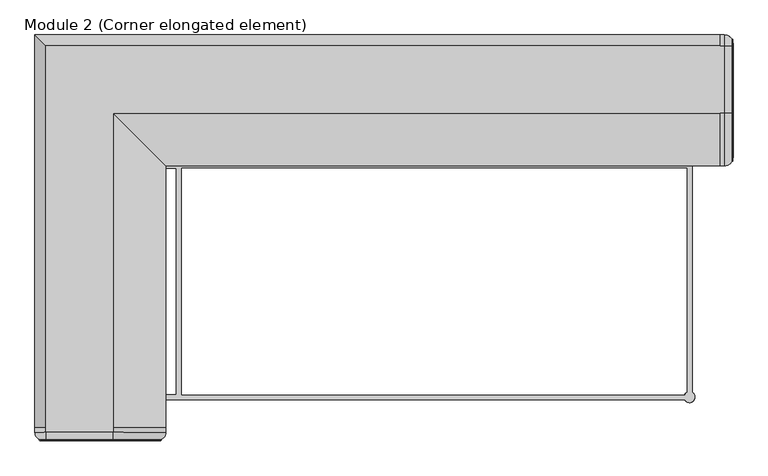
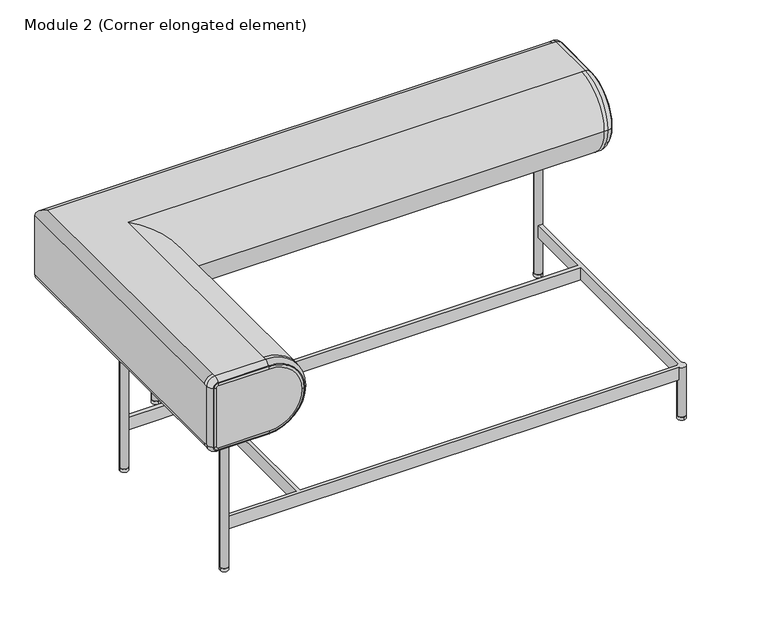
"""IFC4 building model written with IfcOpenShell, lengths in millimetres: furniture geometry, Module 2 (Corner elongated element) : 1600х930х710мм."""

from ifc_helpers import new_model, si_unit, point, frame, frame_2d, origin, origin_with_axes, place, context, project, spatial, circle_curve, ellipse_curve, trimmed, segment, composite_curve, outline, extrude, source, transform, mapped, element, save
from ifc_brep_helpers import plane_surface, cylinder_surface, revolved_surface, advanced_brep


def module_2_corner_elongated_element_4280a7bf(model_context):
    return source(origin(), model_context, "Body", "SolidModel", [
        extrude(outline(composite_curve([segment(trimmed(circle_curve(frame_2d((-30.0, -300.0)), 12.5), [point((-17.5, -300.0))], [point((-42.5, -300.0))], False, "CARTESIAN"), True, "CONTINUOUS"), segment(trimmed(circle_curve(frame_2d((-30.0, -300.0)), 12.5), [point((-42.5, -300.0))], [point((-17.5, -300.0))], False, "CARTESIAN"), True, "CONTINUOUS")], self_intersect=False)), origin_with_axes(), (0.0, 0.0, 1.0), 10.0),
        extrude(outline(composite_curve([segment(trimmed(circle_curve(frame_2d((-30.0, -830.0)), 12.5), [point((-17.5, -830.0))], [point((-42.5, -830.0))], False, "CARTESIAN"), True, "CONTINUOUS"), segment(trimmed(circle_curve(frame_2d((-30.0, -830.0)), 12.5), [point((-42.5, -830.0))], [point((-17.5, -830.0))], False, "CARTESIAN"), True, "CONTINUOUS")], self_intersect=False)), origin_with_axes(), (0.0, 0.0, 1.0), 10.0),
        extrude(outline(composite_curve([segment(trimmed(circle_curve(frame_2d((1370.0, -70.0)), 12.5), [point((1370.0, -82.5))], [point((1370.0, -57.5))], False, "CARTESIAN"), True, "CONTINUOUS"), segment(trimmed(circle_curve(frame_2d((1370.0, -70.0)), 12.5), [point((1370.0, -57.5))], [point((1370.0, -82.5))], False, "CARTESIAN"), True, "CONTINUOUS")], self_intersect=False)), origin_with_axes(), (0.0, 0.0, 1.0), 10.0),
        extrude(outline(composite_curve([segment(trimmed(circle_curve(frame_2d((1370.0, -830.0)), 12.5), [point((1370.0, -842.5))], [point((1370.0, -817.5))], False, "CARTESIAN"), True, "CONTINUOUS"), segment(trimmed(circle_curve(frame_2d((1370.0, -830.0)), 12.5), [point((1370.0, -817.5))], [point((1370.0, -842.5))], False, "CARTESIAN"), True, "CONTINUOUS")], self_intersect=False)), origin_with_axes(), (0.0, 0.0, 1.0), 10.0),
        extrude(outline(composite_curve([segment(trimmed(circle_curve(frame_2d((200.0, -70.0)), 12.5), [point((200.0, -82.5))], [point((200.0, -57.5))], False, "CARTESIAN"), True, "CONTINUOUS"), segment(trimmed(circle_curve(frame_2d((200.0, -70.0)), 12.5), [point((200.0, -57.5))], [point((200.0, -82.5))], False, "CARTESIAN"), True, "CONTINUOUS")], self_intersect=False)), origin_with_axes(), (0.0, 0.0, 1.0), 10.0),
        advanced_brep(
        [(206.0281998, -306.0281998, 130.0), (206.0281998, -306.0281998, 170.0), (206.0281998, -823.9718002, 170.0), (206.0281998, -823.9718002, 130.0), (194.0281998, -80.9812386, 170.0), (194.0281998, -80.9812386, 130.0), (194.0281998, -294.0281998, 130.0), (194.0281998, -294.0281998, 170.0), (194.0281998, -823.9718002, 130.0), (194.0281998, -823.9718002, 170.0), (194.0281998, -306.0281998, 170.0), (194.0281998, -306.0281998, 130.0), (1359.0496207, -823.9718002, 170.0), (1359.0496207, -823.9718002, 130.0), (1359.0187614, -835.9718002, 130.0), (1359.0187614, -835.9718002, 170.0), (-19.0187614, -835.9718002, 170.0), (-19.0187614, -835.9718002, 130.0), (1363.9718002, -306.0281998, 170.0), (1363.9718002, -306.0281998, 130.0), (1363.9718002, -819.0496207, 130.0), (1363.9718002, -819.0496207, 170.0), (1375.9718002, -819.0187614, 170.0), (1375.9718002, -819.0187614, 130.0), (1375.9718002, -80.9812386, 130.0), (1375.9718002, -80.9812386, 170.0), (1357.5, -830.0, 130.0), (-17.5, -830.0, 130.0), (-19.0496207, -823.9718002, 130.0), (-19.0496207, -306.0281998, 130.0), (-17.5, -300.0, 130.0), (-19.0187614, -294.0281998, 130.0), (206.0281998, -80.9503793, 130.0), (206.0281998, -294.0281998, 130.0), (1363.9718002, -294.0281998, 130.0), (1363.9718002, -80.9503793, 130.0), (206.0281998, -294.0281998, 170.0), (1363.9718002, -294.0281998, 170.0), (1382.5, -830.0, 170.0), (1363.9718002, -80.9503793, 170.0), (206.0281998, -80.9503793, 170.0), (-19.0187614, -294.0281998, 170.0), (-17.5, -300.0, 170.0), (-19.0496207, -306.0281998, 170.0), (-19.0496207, -823.9718002, 170.0), (-17.5, -830.0, 170.0), (1357.5, -830.0, 10.0), (1382.5, -830.0, 10.0), (187.5, -70.0, 460.0), (212.5, -70.0, 460.0), (1357.5, -70.0, 460.0), (1382.5, -70.0, 460.0), (-42.5, -830.0, 460.0), (-17.5, -830.0, 460.0), (-42.5, -300.0, 460.0), (-17.5, -300.0, 460.0), (187.5, -70.0, 10.0), (212.5, -70.0, 10.0), (1357.5, -70.0, 10.0), (1382.5, -70.0, 10.0), (-42.5, -830.0, 10.0), (-17.5, -830.0, 10.0), (-42.5, -300.0, 10.0), (-17.5, -300.0, 10.0)],
        [
            (0, 1),
            (1, 2),
            (2, 3),
            (3, 0),
            (4, 5),
            (5, 6),
            (6, 7),
            (7, 4),
            (8, 9),
            (9, 10),
            (10, 11),
            (11, 8),
            (2, 12),
            (12, 13),
            (13, 3),
            (14, 15),
            (15, 16),
            (16, 17),
            (17, 14),
            (18, 19),
            (19, 20),
            (20, 21),
            (21, 18),
            (22, 23),
            (23, 24),
            (24, 25),
            (25, 22),
            (0, 19),
            (18, 1),
            (13, 26, circle_curve(frame((1370.0, -830.0, 130.0), z_axis=(0.0, 0.0, 1.0), x_axis=(1.0, 0.0, 0.0)), 12.5)),
            (26, 14, circle_curve(frame((1370.0, -830.0, 130.0), z_axis=(0.0, 0.0, 1.0), x_axis=(1.0, 0.0, 0.0)), 12.5)),
            (17, 27, circle_curve(frame((-30.0, -830.0, 130.0), z_axis=(0.0, 0.0, 1.0), x_axis=(1.0, 0.0, 0.0)), 12.5)),
            (27, 28, circle_curve(frame((-30.0, -830.0, 130.0), z_axis=(0.0, 0.0, 1.0), x_axis=(1.0, 0.0, 0.0)), 12.5)),
            (28, 8),
            (11, 29),
            (29, 30, circle_curve(frame((-30.0, -300.0, 130.0), z_axis=(0.0, 0.0, 1.0), x_axis=(1.0, 0.0, 0.0)), 12.5)),
            (30, 31, circle_curve(frame((-30.0, -300.0, 130.0), z_axis=(0.0, 0.0, 1.0), x_axis=(1.0, 0.0, 0.0)), 12.5)),
            (31, 6),
            (5, 32, circle_curve(frame((200.0, -70.0, 130.0), z_axis=(0.0, 0.0, 1.0), x_axis=(1.0, 0.0, 0.0)), 12.5)),
            (32, 33),
            (33, 34),
            (34, 35),
            (35, 24, circle_curve(frame((1370.0, -70.0, 130.0), z_axis=(0.0, 0.0, 1.0), x_axis=(1.0, 0.0, 0.0)), 12.5)),
            (23, 20, circle_curve(frame((1370.0, -830.0, 130.0), z_axis=(0.0, 0.0, 1.0), x_axis=(1.0, 0.0, 0.0)), 12.5)),
            (33, 36),
            (36, 37),
            (37, 34),
            (15, 38, circle_curve(frame((1370.0, -830.0, 170.0), z_axis=(0.0, 0.0, 1.0), x_axis=(1.0, 0.0, 0.0)), 12.5)),
            (38, 22, circle_curve(frame((1370.0, -830.0, 170.0), z_axis=(0.0, 0.0, 1.0), x_axis=(1.0, 0.0, 0.0)), 12.5)),
            (25, 39, circle_curve(frame((1370.0, -70.0, 170.0), z_axis=(0.0, 0.0, -1.0), x_axis=(1.0, 0.0, 0.0)), 12.5)),
            (39, 37),
            (36, 40),
            (40, 4, circle_curve(frame((200.0, -70.0, 170.0), z_axis=(0.0, 0.0, -1.0), x_axis=(1.0, 0.0, 0.0)), 12.5)),
            (7, 41),
            (41, 42, circle_curve(frame((-30.0, -300.0, 170.0), z_axis=(0.0, 0.0, -1.0), x_axis=(1.0, 0.0, 0.0)), 12.5)),
            (42, 43, circle_curve(frame((-30.0, -300.0, 170.0), z_axis=(0.0, 0.0, -1.0), x_axis=(1.0, 0.0, 0.0)), 12.5)),
            (43, 10),
            (9, 44),
            (44, 45, circle_curve(frame((-30.0, -830.0, 170.0), z_axis=(0.0, 0.0, -1.0), x_axis=(1.0, 0.0, 0.0)), 12.5)),
            (45, 16, circle_curve(frame((-30.0, -830.0, 170.0), z_axis=(0.0, 0.0, -1.0), x_axis=(1.0, 0.0, 0.0)), 12.5)),
            (21, 12, circle_curve(frame((1370.0, -830.0, 170.0), z_axis=(0.0, 0.0, 1.0), x_axis=(1.0, 0.0, 0.0)), 12.5)),
            (46, 47, circle_curve(frame((1370.0, -830.0, 10.0), z_axis=(0.0, 0.0, -1.0), x_axis=(1.0, 0.0, 0.0)), 12.5)),
            (47, 46, circle_curve(frame((1370.0, -830.0, 10.0), z_axis=(0.0, 0.0, -1.0), x_axis=(1.0, 0.0, 0.0)), 12.5)),
            (47, 38),
            (26, 46),
            (48, 49, circle_curve(frame((200.0, -70.0, 460.0), z_axis=(0.0, 0.0, 1.0), x_axis=(1.0, 0.0, 0.0)), 12.5)),
            (49, 48, circle_curve(frame((200.0, -70.0, 460.0), z_axis=(0.0, 0.0, 1.0), x_axis=(1.0, 0.0, 0.0)), 12.5)),
            (50, 51, circle_curve(frame((1370.0, -70.0, 460.0), z_axis=(0.0, 0.0, 1.0), x_axis=(1.0, 0.0, 0.0)), 12.5)),
            (51, 50, circle_curve(frame((1370.0, -70.0, 460.0), z_axis=(0.0, 0.0, 1.0), x_axis=(1.0, 0.0, 0.0)), 12.5)),
            (52, 53, circle_curve(frame((-30.0, -830.0, 460.0), z_axis=(0.0, 0.0, 1.0), x_axis=(1.0, 0.0, 0.0)), 12.5)),
            (53, 52, circle_curve(frame((-30.0, -830.0, 460.0), z_axis=(0.0, 0.0, 1.0), x_axis=(1.0, 0.0, 0.0)), 12.5)),
            (54, 55, circle_curve(frame((-30.0, -300.0, 460.0), z_axis=(0.0, 0.0, 1.0), x_axis=(1.0, 0.0, 0.0)), 12.5)),
            (55, 54, circle_curve(frame((-30.0, -300.0, 460.0), z_axis=(0.0, 0.0, 1.0), x_axis=(1.0, 0.0, 0.0)), 12.5)),
            (56, 57, circle_curve(frame((200.0, -70.0, 10.0), z_axis=(0.0, 0.0, -1.0), x_axis=(1.0, 0.0, 0.0)), 12.5)),
            (57, 56, circle_curve(frame((200.0, -70.0, 10.0), z_axis=(0.0, 0.0, -1.0), x_axis=(1.0, 0.0, 0.0)), 12.5)),
            (58, 59, circle_curve(frame((1370.0, -70.0, 10.0), z_axis=(0.0, 0.0, -1.0), x_axis=(1.0, 0.0, 0.0)), 12.5)),
            (59, 58, circle_curve(frame((1370.0, -70.0, 10.0), z_axis=(0.0, 0.0, -1.0), x_axis=(1.0, 0.0, 0.0)), 12.5)),
            (60, 61, circle_curve(frame((-30.0, -830.0, 10.0), z_axis=(0.0, 0.0, -1.0), x_axis=(1.0, 0.0, 0.0)), 12.5)),
            (61, 60, circle_curve(frame((-30.0, -830.0, 10.0), z_axis=(0.0, 0.0, -1.0), x_axis=(1.0, 0.0, 0.0)), 12.5)),
            (62, 63, circle_curve(frame((-30.0, -300.0, 10.0), z_axis=(0.0, 0.0, -1.0), x_axis=(1.0, 0.0, 0.0)), 12.5)),
            (63, 62, circle_curve(frame((-30.0, -300.0, 10.0), z_axis=(0.0, 0.0, -1.0), x_axis=(1.0, 0.0, 0.0)), 12.5)),
            (48, 56),
            (57, 49),
            (40, 32),
            (39, 35),
            (50, 58),
            (59, 51),
            (52, 60),
            (61, 27),
            (45, 53),
            (44, 28),
            (54, 62),
            (63, 30),
            (29, 43),
            (42, 55),
            (41, 31),
        ],
        [
            plane_surface(frame((206.0281998, -306.0281998, 170.0), z_axis=(1.0, 0.0, 0.0), x_axis=(0.0, -1.0, 0.0))),
            plane_surface(frame((194.0281998, -294.0281998, 130.0), z_axis=(-1.0, 0.0, 0.0), x_axis=(0.0, -1.0, 0.0))),
            plane_surface(frame((206.0281998, -823.9718002, 170.0), z_axis=(0.0, 1.0, 0.0), x_axis=(1.0, 0.0, 0.0))),
            plane_surface(frame((194.0281998, -835.9718002, 130.0), z_axis=(0.0, -1.0, 0.0), x_axis=(1.0, 0.0, 0.0))),
            plane_surface(frame((1363.9718002, -823.9718002, 170.0), z_axis=(-1.0, 0.0, 0.0), x_axis=(0.0, 1.0, 0.0))),
            plane_surface(frame((1375.9718002, -835.9718002, 130.0), z_axis=(1.0, 0.0, 0.0), x_axis=(0.0, 1.0, 0.0))),
            plane_surface(frame((1363.9718002, -306.0281998, 170.0), z_axis=(0.0, -1.0, 0.0), x_axis=(-1.0, 0.0, 0.0))),
            plane_surface(frame((1363.9718002, -306.0281998, 130.0), z_axis=(0.0, 0.0, -1.0), x_axis=(-1.0, 0.0, 0.0))),
            plane_surface(frame((1375.9718002, -294.0281998, 130.0), z_axis=(0.0, 1.0, 0.0), x_axis=(-1.0, 0.0, 0.0))),
            plane_surface(frame((1375.9718002, -294.0281998, 170.0), z_axis=(0.0, 0.0, 1.0), x_axis=(-1.0, 0.0, 0.0))),
            plane_surface(frame((1382.5, -830.0, 10.0), z_axis=(0.0, 0.0, -1.0), x_axis=(0.0, -1.0, 0.0))),
            cylinder_surface(frame((1370.0, -830.0, 10.0), z_axis=(0.0, 0.0, 1.0), x_axis=(1.0, 0.0, 0.0)), 12.5),
            plane_surface(frame((212.5, -70.0, 460.0), z_axis=(0.0, 0.0, 1.0), x_axis=(0.0, 1.0, 0.0))),
            plane_surface(frame((212.5, -70.0, 10.0), z_axis=(0.0, 0.0, -1.0), x_axis=(0.0, -1.0, 0.0))),
            cylinder_surface(frame((200.0, -70.0, 10.0), z_axis=(0.0, 0.0, 1.0), x_axis=(1.0, 0.0, 0.0)), 12.5),
            plane_surface(frame((206.0281998, -70.0, 170.0), z_axis=(1.0, 0.0, 0.0), x_axis=(0.0, -1.0, 0.0))),
            plane_surface(frame((1363.9718002, -70.0, 130.0), z_axis=(-1.0, 0.0, 0.0), x_axis=(0.0, -1.0, 0.0))),
            cylinder_surface(frame((1370.0, -70.0, 0.0), z_axis=(0.0, 0.0, 1.0), x_axis=(1.0, 0.0, 0.0)), 12.5),
            cylinder_surface(frame((-30.0, -830.0, 0.0), z_axis=(0.0, 0.0, 1.0), x_axis=(1.0, 0.0, 0.0)), 12.5),
            cylinder_surface(frame((-30.0, -300.0, 0.0), z_axis=(0.0, 0.0, 1.0), x_axis=(1.0, 0.0, 0.0)), 12.5),
            plane_surface(frame((200.0, -823.9718002, 130.0), z_axis=(0.0, 1.0, 0.0), x_axis=(-1.0, 0.0, 0.0))),
            plane_surface(frame((200.0, -306.0281998, 170.0), z_axis=(0.0, -1.0, 0.0), x_axis=(-1.0, 0.0, 0.0))),
            plane_surface(frame((200.0, -294.0281998, 130.0), z_axis=(0.0, 1.0, 0.0), x_axis=(-1.0, 0.0, 0.0))),
        ],
        [
            (0, [[1, 2, 3, 4]]),
            (1, [[5, 6, 7, 8]]),
            (1, [[9, 10, 11, 12]]),
            (2, [[-3, 13, 14, 15]]),
            (3, [[16, 17, 18, 19]]),
            (4, [[20, 21, 22, 23]]),
            (5, [[24, 25, 26, 27]]),
            (6, [[-1, 28, -20, 29]]),
            (7, [[-4, -15, 30, 31, -19, 32, 33, 34, -12, 35, 36, 37, 38, -6, 39, 40, 41, 42, 43, -25, 44, -21, -28]]),
            (8, [[45, 46, 47, -41]]),
            (9, [[48, 49, -27, 50, 51, -46, 52, 53, -8, 54, 55, 56, 57, -10, 58, 59, 60, -17], [-2, -29, -23, 61, -13]]),
            (10, [[62, 63]]),
            (11, [[-63, 64, -48, -16, -31, 65]]),
            (11, [[-62, -65, -30, -14, -61, -22, -44, -24, -49, -64]]),
            (12, [[66, 67]]),
            (12, [[68, 69]]),
            (12, [[70, 71]]),
            (12, [[72, 73]]),
            (13, [[74, 75]]),
            (13, [[76, 77]]),
            (13, [[78, 79]]),
            (13, [[80, 81]]),
            (14, [[-66, 82, -75, 83], [84, -39, -5, -53]]),
            (14, [[-67, -83, -74, -82]]),
            (15, [[-52, -45, -40, -84]]),
            (16, [[-42, -47, -51, 85]]),
            (17, [[-68, 86, -77, 87], [-26, -43, -85, -50]]),
            (17, [[-69, -87, -76, -86]]),
            (18, [[-70, 88, -79, 89, -32, -18, -60, 90]]),
            (18, [[-71, -90, -59, 91, -33, -89, -78, -88]]),
            (19, [[-72, 92, -81, 93, -36, 94, -56, 95]]),
            (19, [[-73, -95, -55, 96, -37, -93, -80, -92]]),
            (20, [[-58, -9, -34, -91]]),
            (21, [[-57, -94, -35, -11]]),
            (22, [[-54, -7, -38, -96]]),
        ],
    ),
        advanced_brep(
        [(1470.0, -180.0, 680.0), (1470.0, -280.0, 580.0), (1470.0, -180.0, 480.0), (1470.0, -25.0, 480.0), (1470.0, -20.0, 485.0), (1470.0, -20.0, 675.0), (1470.0, -25.0, 680.0), (1468.319335, -180.0, 688.0250834), (1468.319335, -288.0250834, 580.0), (1450.0, -300.0, 580.0), (1450.0, -180.0, 700.0), (1440.0, -180.0, 700.0), (1440.0, -300.0, 580.0), (1468.319335, -180.0, 471.9749166), (1440.0, -180.0, 460.0), (1450.0, -180.0, 460.0), (1468.319335, -25.0, 471.9749166), (50.0, -180.0, 460.0), (50.0, -900.0, 460.0), (50.0, -910.0, 460.0), (-105.0, -910.0, 460.0), (-105.0, -900.0, 460.0), (-105.0, -25.0, 460.0), (1440.0, -25.0, 460.0), (1450.0, -25.0, 460.0), (1468.319335, -11.9749166, 485.0), (1440.0, 0.0, 485.0), (1450.0, 0.0, 485.0), (1468.319335, -11.9749166, 675.0), (-130.0, 0.0, 485.0), (-130.0, 0.0, 675.0), (1440.0, 0.0, 675.0), (1450.0, 0.0, 675.0), (1468.319335, -25.0, 688.0250834), (1440.0, -25.0, 700.0), (1450.0, -25.0, 700.0), (-105.0, -25.0, 700.0), (-105.0, -900.0, 700.0), (-105.0, -910.0, 700.0), (50.0, -910.0, 700.0), (50.0, -900.0, 700.0), (50.0, -180.0, 700.0), (1467.9066419, -288.9079837, 580.0), (1467.9066419, -180.0, 688.9079837), (1467.9066419, -180.0, 471.0920163), (1467.9066419, -25.0, 471.0920163), (1467.9066419, -11.0920163, 485.0), (1467.9066419, -11.0920163, 675.0), (1467.9066419, -25.0, 688.9079837), (170.0, -300.0, 580.0), (-105.0, -930.0, 680.0), (-110.0, -930.0, 675.0), (-110.0, -930.0, 485.0), (-105.0, -930.0, 480.0), (50.0, -930.0, 480.0), (150.0, -930.0, 580.0), (49.9999892, -930.0, 680.0), (-105.0, -928.2694485, 688.1380127), (-118.1380127, -928.2694485, 675.0), (-130.0, -910.0, 675.0), (-130.0, -900.0, 675.0), (-118.1380127, -928.2694485, 485.0), (-105.0, -928.2694485, 471.8619873), (-130.0, -910.0, 485.0), (-130.0, -900.0, 485.0), (50.0, -928.2694485, 471.8619873), (158.1380127, -928.2694485, 580.0), (170.0, -900.0, 580.0), (170.0, -910.0, 580.0), (50.0, -928.2694485, 688.1380127), (-118.9370117, -927.8921721, 675.0), (-105.0, -927.8921721, 688.9370117), (-118.9370117, -927.8921721, 485.0), (-105.0, -927.8921721, 471.0629883), (50.0, -927.8921721, 471.0629883), (158.9370117, -927.8921721, 580.0), (50.0, -927.8921721, 688.9370117)],
        [
            (0, 1, circle_curve(frame((1470.0, -180.0, 580.0), z_axis=(1.0, 0.0, 0.0), x_axis=(0.0, 0.0, 1.0)), 100.0)),
            (1, 2, circle_curve(frame((1470.0, -180.0, 580.0), z_axis=(1.0, 0.0, 0.0), x_axis=(0.0, -1.0, 0.0)), 100.0)),
            (2, 3),
            (3, 4, circle_curve(frame((1470.0, -25.0, 485.0), z_axis=(1.0, 0.0, 0.0), x_axis=(0.0, 0.0, -1.0)), 5.0)),
            (4, 5),
            (5, 6, circle_curve(frame((1470.0, -25.0, 675.0), z_axis=(1.0, 0.0, 0.0), x_axis=(0.0, 1.0, 0.0)), 5.0)),
            (6, 0),
            (0, 7, circle_curve(frame((1450.0, -180.0, 680.0), z_axis=(0.0, -1.0, 0.0), x_axis=(0.0, 0.0, -1.0)), 20.0)),
            (7, 8, circle_curve(frame((1468.319335, -180.0, 580.0), z_axis=(1.0, 0.0, 0.0), x_axis=(0.0, 0.0, 1.0)), 108.0250834)),
            (8, 1, circle_curve(frame((1450.0, -280.0, 580.0), z_axis=(0.0, 0.0, 1.0), x_axis=(0.0, 1.0, 0.0)), 20.0)),
            (9, 10, circle_curve(frame((1450.0, -180.0, 580.0), z_axis=(-1.0, 0.0, 0.0), x_axis=(0.0, 0.0, 1.0)), 120.0)),
            (10, 11),
            (11, 12, circle_curve(frame((1440.0, -180.0, 580.0), z_axis=(1.0, 0.0, 0.0), x_axis=(0.0, 0.0, 1.0)), 120.0)),
            (12, 9),
            (8, 13, circle_curve(frame((1468.319335, -180.0, 580.0), z_axis=(1.0, 0.0, 0.0), x_axis=(0.0, -1.0, 0.0)), 108.0250834)),
            (13, 2, circle_curve(frame((1450.0, -180.0, 480.0), z_axis=(0.0, -1.0, 0.0), x_axis=(0.0, 0.0, 1.0)), 20.0)),
            (12, 14, circle_curve(frame((1440.0, -180.0, 580.0), z_axis=(1.0, 0.0, 0.0), x_axis=(0.0, -1.0, 0.0)), 120.0)),
            (14, 15),
            (15, 9, circle_curve(frame((1450.0, -180.0, 580.0), z_axis=(-1.0, 0.0, 0.0), x_axis=(0.0, -1.0, 0.0)), 120.0)),
            (13, 16),
            (16, 3, circle_curve(frame((1450.0, -25.0, 480.0), z_axis=(0.0, -1.0, 0.0), x_axis=(0.0, 0.0, 1.0)), 20.0)),
            (14, 17),
            (17, 18),
            (18, 19),
            (19, 20),
            (20, 21),
            (21, 22),
            (22, 23),
            (23, 24),
            (24, 15),
            (16, 25, circle_curve(frame((1468.319335, -25.0, 485.0), z_axis=(1.0, 0.0, 0.0), x_axis=(0.0, 0.0, -1.0)), 13.0250834)),
            (25, 4, circle_curve(frame((1450.0, -20.0, 485.0), z_axis=(0.0, 0.0, -1.0), x_axis=(0.0, -1.0, 0.0)), 20.0)),
            (23, 26, circle_curve(frame((1440.0, -25.0, 485.0), z_axis=(1.0, 0.0, 0.0), x_axis=(0.0, 0.0, -1.0)), 25.0)),
            (26, 27),
            (27, 24, circle_curve(frame((1450.0, -25.0, 485.0), z_axis=(-1.0, 0.0, 0.0), x_axis=(0.0, 0.0, -1.0)), 25.0)),
            (25, 28),
            (28, 5, circle_curve(frame((1450.0, -20.0, 675.0), z_axis=(0.0, 0.0, -1.0), x_axis=(0.0, -1.0, 0.0)), 20.0)),
            (26, 29),
            (29, 30),
            (30, 31),
            (31, 32),
            (32, 27),
            (28, 33, circle_curve(frame((1468.319335, -25.0, 675.0), z_axis=(1.0, 0.0, 0.0), x_axis=(0.0, 1.0, 0.0)), 13.0250834)),
            (33, 6, circle_curve(frame((1450.0, -25.0, 680.0), z_axis=(0.0, 1.0, 0.0), x_axis=(0.0, 0.0, -1.0)), 20.0)),
            (31, 34, circle_curve(frame((1440.0, -25.0, 675.0), z_axis=(1.0, 0.0, 0.0), x_axis=(0.0, 1.0, 0.0)), 25.0)),
            (34, 35),
            (35, 32, circle_curve(frame((1450.0, -25.0, 675.0), z_axis=(-1.0, 0.0, 0.0), x_axis=(0.0, 1.0, 0.0)), 25.0)),
            (33, 7),
            (10, 35),
            (34, 36),
            (36, 37),
            (37, 38),
            (38, 39),
            (39, 40),
            (40, 41),
            (41, 11),
            (9, 42, circle_curve(frame((1450.0, -280.0, 580.0), z_axis=(0.0, 0.0, 1.0), x_axis=(0.0, 1.0, 0.0)), 20.0)),
            (42, 43, circle_curve(frame((1467.9066419, -180.0, 580.0), z_axis=(-1.0, 0.0, 0.0), x_axis=(0.0, 0.0, 1.0)), 108.9079837)),
            (43, 10, circle_curve(frame((1450.0, -180.0, 680.0), z_axis=(0.0, -1.0, 0.0), x_axis=(0.0, 0.0, -1.0)), 20.0)),
            (7, 43, circle_curve(frame((1468.6877598, -180.0, 688.7351983), z_axis=(0.0, -1.0, 0.0), x_axis=(0.0, 0.0, -1.0)), 0.8)),
            (42, 8, circle_curve(frame((1468.6877598, -288.7351983, 580.0), z_axis=(0.0, 0.0, 1.0), x_axis=(0.0, 1.0, 0.0)), 0.8)),
            (15, 44, circle_curve(frame((1450.0, -180.0, 480.0), z_axis=(0.0, -1.0, 0.0), x_axis=(0.0, 0.0, 1.0)), 20.0)),
            (44, 42, circle_curve(frame((1467.9066419, -180.0, 580.0), z_axis=(-1.0, 0.0, 0.0), x_axis=(0.0, -1.0, 0.0)), 108.9079837)),
            (44, 13, circle_curve(frame((1468.6877598, -180.0, 471.2648017), z_axis=(0.0, -1.0, 0.0), x_axis=(0.0, 0.0, 1.0)), 0.8)),
            (24, 45, circle_curve(frame((1450.0, -25.0, 480.0), z_axis=(0.0, -1.0, 0.0), x_axis=(0.0, 0.0, 1.0)), 20.0)),
            (45, 44),
            (45, 16, circle_curve(frame((1468.6877598, -25.0, 471.2648017), z_axis=(0.0, -1.0, 0.0), x_axis=(0.0, 0.0, 1.0)), 0.8)),
            (27, 46, circle_curve(frame((1450.0, -20.0, 485.0), z_axis=(0.0, 0.0, -1.0), x_axis=(0.0, -1.0, 0.0)), 20.0)),
            (46, 45, circle_curve(frame((1467.9066419, -25.0, 485.0), z_axis=(-1.0, 0.0, 0.0), x_axis=(0.0, 0.0, -1.0)), 13.9079837)),
            (46, 25, circle_curve(frame((1468.6877598, -11.2648017, 485.0), z_axis=(0.0, 0.0, -1.0), x_axis=(0.0, -1.0, 0.0)), 0.8)),
            (32, 47, circle_curve(frame((1450.0, -20.0, 675.0), z_axis=(0.0, 0.0, -1.0), x_axis=(0.0, -1.0, 0.0)), 20.0)),
            (47, 46),
            (47, 28, circle_curve(frame((1468.6877598, -11.2648017, 675.0), z_axis=(0.0, 0.0, -1.0), x_axis=(0.0, -1.0, 0.0)), 0.8)),
            (35, 48, circle_curve(frame((1450.0, -25.0, 680.0), z_axis=(0.0, 1.0, 0.0), x_axis=(0.0, 0.0, -1.0)), 20.0)),
            (48, 47, circle_curve(frame((1467.9066419, -25.0, 675.0), z_axis=(-1.0, 0.0, 0.0), x_axis=(0.0, 1.0, 0.0)), 13.9079837)),
            (48, 33, circle_curve(frame((1468.6877598, -25.0, 688.7351983), z_axis=(0.0, 1.0, 0.0), x_axis=(0.0, 0.0, -1.0)), 0.8)),
            (43, 48),
            (30, 36, ellipse_curve(frame((-105.0, -25.0, 675.0), z_axis=(0.7071067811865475, 0.7071067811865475, 0.0), x_axis=(0.7071067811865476, -0.7071067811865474, 0.0)), 35.3553391, 25.0)),
            (41, 49, ellipse_curve(frame((50.0, -180.0, 580.0), z_axis=(0.7071067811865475, 0.7071067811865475, 0.0), x_axis=(0.7071067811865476, -0.7071067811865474, 0.0)), 169.7056275, 120.0)),
            (49, 12),
            (49, 17, ellipse_curve(frame((50.0, -180.0, 580.0), z_axis=(0.7071067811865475, 0.7071067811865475, 0.0), x_axis=(0.7071067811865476, -0.7071067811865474, 0.0)), 169.7056275, 120.0)),
            (22, 29, ellipse_curve(frame((-105.0, -25.0, 485.0), z_axis=(0.7071067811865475, 0.7071067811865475, 0.0), x_axis=(0.7071067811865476, -0.7071067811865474, 0.0)), 35.3553391, 25.0)),
            (50, 51, circle_curve(frame((-105.0, -930.0, 675.0), z_axis=(0.0, -1.0, 0.0), x_axis=(0.0, 0.0, 1.0)), 5.0)),
            (51, 52),
            (52, 53, circle_curve(frame((-105.0, -930.0, 485.0), z_axis=(0.0, -1.0, 0.0), x_axis=(-1.0, 0.0, 0.0)), 5.0)),
            (53, 54),
            (54, 55, circle_curve(frame((50.0, -930.0, 580.0), z_axis=(0.0, -1.0, 0.0), x_axis=(0.0, 0.0, -1.0)), 100.0)),
            (55, 56, circle_curve(frame((50.0, -930.0, 580.0), z_axis=(0.0, -1.0, 0.0), x_axis=(1.0, 0.0, 0.0)), 100.0)),
            (56, 50),
            (50, 57, circle_curve(frame((-105.0, -910.0, 680.0), z_axis=(-1.0, 0.0, 0.0), x_axis=(0.0, 0.0, -1.0)), 20.0)),
            (57, 58, circle_curve(frame((-105.0, -928.2694485, 675.0), z_axis=(0.0, -1.0, 0.0), x_axis=(0.0, 0.0, 1.0)), 13.1380127)),
            (58, 51, circle_curve(frame((-110.0, -910.0, 675.0), z_axis=(0.0, 0.0, 1.0), x_axis=(1.0, 0.0, 0.0)), 20.0)),
            (59, 38, circle_curve(frame((-105.0, -910.0, 675.0), z_axis=(0.0, 1.0, 0.0), x_axis=(0.0, 0.0, 1.0)), 25.0)),
            (37, 60, circle_curve(frame((-105.0, -900.0, 675.0), z_axis=(0.0, -1.0, 0.0), x_axis=(0.0, 0.0, 1.0)), 25.0)),
            (60, 59),
            (58, 61),
            (61, 52, circle_curve(frame((-110.0, -910.0, 485.0), z_axis=(0.0, 0.0, 1.0), x_axis=(1.0, 0.0, 0.0)), 20.0)),
            (61, 62, circle_curve(frame((-105.0, -928.2694485, 485.0), z_axis=(0.0, -1.0, 0.0), x_axis=(-1.0, 0.0, 0.0)), 13.1380127)),
            (62, 53, circle_curve(frame((-105.0, -910.0, 480.0), z_axis=(-1.0, 0.0, 0.0), x_axis=(0.0, 0.0, 1.0)), 20.0)),
            (63, 64),
            (64, 21, circle_curve(frame((-105.0, -900.0, 485.0), z_axis=(0.0, -1.0, 0.0), x_axis=(-1.0, 0.0, 0.0)), 25.0)),
            (20, 63, circle_curve(frame((-105.0, -910.0, 485.0), z_axis=(0.0, 1.0, 0.0), x_axis=(-1.0, 0.0, 0.0)), 25.0)),
            (62, 65),
            (65, 54, circle_curve(frame((50.0, -910.0, 480.0), z_axis=(-1.0, 0.0, 0.0), x_axis=(0.0, 0.0, 1.0)), 20.0)),
            (65, 66, circle_curve(frame((50.0, -928.2694485, 580.0), z_axis=(0.0, -1.0, 0.0), x_axis=(0.0, 0.0, -1.0)), 108.1380127)),
            (66, 55, circle_curve(frame((150.0, -910.0, 580.0), z_axis=(0.0, 0.0, -1.0), x_axis=(-1.0, 0.0, 0.0)), 20.0)),
            (18, 67, circle_curve(frame((50.0, -900.0, 580.0), z_axis=(0.0, -1.0, 0.0), x_axis=(0.0, 0.0, -1.0)), 120.0)),
            (67, 68),
            (68, 19, circle_curve(frame((50.0, -910.0, 580.0), z_axis=(0.0, 1.0, 0.0), x_axis=(0.0, 0.0, -1.0)), 120.0)),
            (66, 69, circle_curve(frame((50.0, -928.2694485, 580.0), z_axis=(0.0, -1.0, 0.0), x_axis=(1.0, 0.0, 0.0)), 108.1380127)),
            (69, 56, circle_curve(frame((50.0, -910.0, 680.0), z_axis=(1.0, 0.0, 0.0), x_axis=(0.0, 0.0, -1.0)), 20.0)),
            (67, 40, circle_curve(frame((50.0, -900.0, 580.0), z_axis=(0.0, -1.0, 0.0), x_axis=(1.0, 0.0, 0.0)), 120.0)),
            (39, 68, circle_curve(frame((50.0, -910.0, 580.0), z_axis=(0.0, 1.0, 0.0), x_axis=(1.0, 0.0, 0.0)), 120.0)),
            (69, 57),
            (59, 70, circle_curve(frame((-110.0, -910.0, 675.0), z_axis=(0.0, 0.0, 1.0), x_axis=(1.0, 0.0, 0.0)), 20.0)),
            (70, 71, circle_curve(frame((-105.0, -927.8921721, 675.0), z_axis=(0.0, 1.0, 0.0), x_axis=(0.0, 0.0, 1.0)), 13.9370117)),
            (71, 38, circle_curve(frame((-105.0, -910.0, 680.0), z_axis=(-1.0, 0.0, 0.0), x_axis=(0.0, 0.0, -1.0)), 20.0)),
            (57, 71, circle_curve(frame((-105.0, -928.6898309, 688.8250834), z_axis=(-1.0, 0.0, 0.0), x_axis=(0.0, 0.0, -1.0)), 0.8054734)),
            (70, 58, circle_curve(frame((-118.8250834, -928.6898309, 675.0), z_axis=(0.0, 0.0, 1.0), x_axis=(1.0, 0.0, 0.0)), 0.8054734)),
            (59, 63),
            (63, 72, circle_curve(frame((-110.0, -910.0, 485.0), z_axis=(0.0, 0.0, 1.0), x_axis=(1.0, 0.0, 0.0)), 20.0)),
            (72, 70),
            (72, 61, circle_curve(frame((-118.8250834, -928.6898309, 485.0), z_axis=(0.0, 0.0, 1.0), x_axis=(1.0, 0.0, 0.0)), 0.8054734)),
            (20, 73, circle_curve(frame((-105.0, -910.0, 480.0), z_axis=(-1.0, 0.0, 0.0), x_axis=(0.0, 0.0, 1.0)), 20.0)),
            (73, 72, circle_curve(frame((-105.0, -927.8921721, 485.0), z_axis=(0.0, 1.0, 0.0), x_axis=(-1.0, 0.0, 0.0)), 13.9370117)),
            (73, 62, circle_curve(frame((-105.0, -928.6898309, 471.1749166), z_axis=(-1.0, 0.0, 0.0), x_axis=(0.0, 0.0, 1.0)), 0.8054734)),
            (19, 74, circle_curve(frame((50.0, -910.0, 480.0), z_axis=(-1.0, 0.0, 0.0), x_axis=(0.0, 0.0, 1.0)), 20.0)),
            (74, 73),
            (74, 65, circle_curve(frame((50.0, -928.6898309, 471.1749166), z_axis=(-1.0, 0.0, 0.0), x_axis=(0.0, 0.0, 1.0)), 0.8054734)),
            (68, 75, circle_curve(frame((150.0, -910.0, 580.0), z_axis=(0.0, 0.0, -1.0), x_axis=(-1.0, 0.0, 0.0)), 20.0)),
            (75, 74, circle_curve(frame((50.0, -927.8921721, 580.0), z_axis=(0.0, 1.0, 0.0), x_axis=(0.0, 0.0, -1.0)), 108.9370117)),
            (75, 66, circle_curve(frame((158.8250834, -928.6898309, 580.0), z_axis=(0.0, 0.0, -1.0), x_axis=(-1.0, 0.0, 0.0)), 0.8054734)),
            (39, 76, circle_curve(frame((50.0, -910.0, 680.0), z_axis=(1.0, 0.0, 0.0), x_axis=(0.0, 0.0, -1.0)), 20.0)),
            (76, 75, circle_curve(frame((50.0, -927.8921721, 580.0), z_axis=(0.0, 1.0, 0.0), x_axis=(1.0, 0.0, 0.0)), 108.9370117)),
            (76, 69, circle_curve(frame((50.0, -928.6898309, 688.8250834), z_axis=(1.0, 0.0, 0.0), x_axis=(0.0, 0.0, -1.0)), 0.8054734)),
            (71, 76),
            (29, 64),
            (60, 30),
            (67, 49),
        ],
        [
            plane_surface(frame((1470.0, -180.0, 680.0), z_axis=(1.0, 0.0, 0.0), x_axis=(0.0, -1.0, 0.0))),
            revolved_surface(trimmed(ellipse_curve(frame((1450.0, -180.0, 680.0), z_axis=(0.0, 1.0, 0.0), x_axis=(0.0, 0.0, -1.0)), 20.0, 20.0), [point((1468.319335, -180.0, 688.0250834))], [point((1470.0, -180.0, 680.0))], True, "CARTESIAN"), (1440.0, -180.0, 580.0), (1.0, 0.0, 0.0)),
            cylinder_surface(frame((1440.0, -180.0, 580.0), z_axis=(1.0, 0.0, 0.0), x_axis=(0.0, 0.0, 1.0)), 120.0),
            revolved_surface(trimmed(ellipse_curve(frame((1450.0, -280.0, 580.0), z_axis=(0.0, 0.0, 1.0), x_axis=(0.0, 1.0, 0.0)), 20.0, 20.0), [point((1468.319335, -288.0250834, 580.0))], [point((1470.0, -280.0, 580.0))], True, "CARTESIAN"), (1440.0, -180.0, 580.0), (1.0, 0.0, 0.0)),
            cylinder_surface(frame((1440.0, -180.0, 580.0), z_axis=(1.0, 0.0, 0.0), x_axis=(0.0, -1.0, 0.0)), 120.0),
            cylinder_surface(frame((1450.0, -180.0, 480.0), z_axis=(0.0, -1.0, 0.0), x_axis=(0.0, 0.0, 1.0)), 20.0),
            plane_surface(frame((1440.0, -180.0, 460.0), z_axis=(0.0, 0.0, -1.0), x_axis=(0.0, 1.0, 0.0))),
            revolved_surface(trimmed(ellipse_curve(frame((1450.0, -25.0, 480.0), z_axis=(0.0, -1.0, 0.0), x_axis=(0.0, 0.0, 1.0)), 20.0, 20.0), [point((1468.319335, -25.0, 471.9749166))], [point((1470.0, -25.0, 480.0))], True, "CARTESIAN"), (1440.0, -25.0, 485.0), (1.0, 0.0, 0.0)),
            cylinder_surface(frame((1440.0, -25.0, 485.0), z_axis=(1.0, 0.0, 0.0), x_axis=(0.0, 0.0, -1.0)), 25.0),
            cylinder_surface(frame((1450.0, -20.0, 485.0), z_axis=(0.0, 0.0, -1.0), x_axis=(0.0, -1.0, 0.0)), 20.0),
            plane_surface(frame((1440.0, 0.0, 485.0), z_axis=(0.0, 1.0, 0.0), x_axis=(0.0, 0.0, 1.0))),
            revolved_surface(trimmed(ellipse_curve(frame((1450.0, -20.0, 675.0), z_axis=(0.0, 0.0, -1.0), x_axis=(0.0, -1.0, 0.0)), 20.0, 20.0), [point((1468.319335, -11.9749166, 675.0))], [point((1470.0, -20.0, 675.0))], True, "CARTESIAN"), (1440.0, -25.0, 675.0), (1.0, 0.0, 0.0)),
            cylinder_surface(frame((1440.0, -25.0, 675.0), z_axis=(1.0, 0.0, 0.0), x_axis=(0.0, 1.0, 0.0)), 25.0),
            cylinder_surface(frame((1450.0, -25.0, 680.0), z_axis=(0.0, 1.0, 0.0), x_axis=(0.0, 0.0, -1.0)), 20.0),
            plane_surface(frame((1440.0, -25.0, 700.0), z_axis=(0.0, 0.0, 1.0), x_axis=(0.0, -1.0, 0.0))),
            revolved_surface(trimmed(ellipse_curve(frame((1450.0, -180.0, 680.0), z_axis=(0.0, 1.0, 0.0), x_axis=(0.0, 0.0, -1.0)), 20.0, 20.0), [point((1450.0, -180.0, 700.0))], [point((1467.9066419, -180.0, 688.9079837))], True, "CARTESIAN"), (1440.0, -180.0, 580.0), (1.0, 0.0, 0.0)),
            revolved_surface(trimmed(ellipse_curve(frame((1468.6877598, -180.0, 688.7351983), z_axis=(0.0, 1.0, 0.0), x_axis=(0.0, 0.0, -1.0)), 0.8, 0.8), [point((1467.9066419, -180.0, 688.9079837))], [point((1468.319335, -180.0, 688.0250834))], True, "CARTESIAN"), (1440.0, -180.0, 580.0), (1.0, 0.0, 0.0)),
            revolved_surface(trimmed(ellipse_curve(frame((1450.0, -280.0, 580.0), z_axis=(0.0, 0.0, 1.0), x_axis=(0.0, 1.0, 0.0)), 20.0, 20.0), [point((1450.0, -300.0, 580.0))], [point((1467.9066419, -288.9079837, 580.0))], True, "CARTESIAN"), (1440.0, -180.0, 580.0), (1.0, 0.0, 0.0)),
            revolved_surface(trimmed(ellipse_curve(frame((1468.6877598, -288.7351983, 580.0), z_axis=(0.0, 0.0, 1.0), x_axis=(0.0, 1.0, 0.0)), 0.8, 0.8), [point((1467.9066419, -288.9079837, 580.0))], [point((1468.319335, -288.0250834, 580.0))], True, "CARTESIAN"), (1440.0, -180.0, 580.0), (1.0, 0.0, 0.0)),
            cylinder_surface(frame((1468.6877598, -180.0, 471.2648017), z_axis=(0.0, -1.0, 0.0), x_axis=(0.0, 0.0, 1.0)), 0.8),
            revolved_surface(trimmed(ellipse_curve(frame((1450.0, -25.0, 480.0), z_axis=(0.0, -1.0, 0.0), x_axis=(0.0, 0.0, 1.0)), 20.0, 20.0), [point((1450.0, -25.0, 460.0))], [point((1467.9066419, -25.0, 471.0920163))], True, "CARTESIAN"), (1440.0, -25.0, 485.0), (1.0, 0.0, 0.0)),
            revolved_surface(trimmed(ellipse_curve(frame((1468.6877598, -25.0, 471.2648017), z_axis=(0.0, -1.0, 0.0), x_axis=(0.0, 0.0, 1.0)), 0.8, 0.8), [point((1467.9066419, -25.0, 471.0920163))], [point((1468.319335, -25.0, 471.9749166))], True, "CARTESIAN"), (1440.0, -25.0, 485.0), (1.0, 0.0, 0.0)),
            cylinder_surface(frame((1468.6877598, -11.2648017, 485.0), z_axis=(0.0, 0.0, -1.0), x_axis=(0.0, -1.0, 0.0)), 0.8),
            revolved_surface(trimmed(ellipse_curve(frame((1450.0, -20.0, 675.0), z_axis=(0.0, 0.0, -1.0), x_axis=(0.0, -1.0, 0.0)), 20.0, 20.0), [point((1450.0, 0.0, 675.0))], [point((1467.9066419, -11.0920163, 675.0))], True, "CARTESIAN"), (1440.0, -25.0, 675.0), (1.0, 0.0, 0.0)),
            revolved_surface(trimmed(ellipse_curve(frame((1468.6877598, -11.2648017, 675.0), z_axis=(0.0, 0.0, -1.0), x_axis=(0.0, -1.0, 0.0)), 0.8, 0.8), [point((1467.9066419, -11.0920163, 675.0))], [point((1468.319335, -11.9749166, 675.0))], True, "CARTESIAN"), (1440.0, -25.0, 675.0), (1.0, 0.0, 0.0)),
            cylinder_surface(frame((1468.6877598, -25.0, 688.7351983), z_axis=(0.0, 1.0, 0.0), x_axis=(0.0, 0.0, -1.0)), 0.8),
            cylinder_surface(frame((1440.0, -25.0, 675.0), z_axis=(1.0, 0.0, 0.0), x_axis=(0.0, -1.0, 0.0)), 25.0),
            cylinder_surface(frame((1440.0, -25.0, 485.0), z_axis=(1.0, 0.0, 0.0), x_axis=(0.0, -1.0, 0.0)), 25.0),
            plane_surface(frame((-105.0, -930.0, 680.0), z_axis=(0.0, -1.0, 0.0), x_axis=(-1.0, 0.0, 0.0))),
            revolved_surface(trimmed(ellipse_curve(frame((-105.0, -910.0, 680.0), z_axis=(1.0, 0.0, 0.0), x_axis=(0.0, 0.0, -1.0)), 20.0, 20.0), [point((-105.0, -928.2694485, 688.1380127))], [point((-105.0, -930.0, 680.0))], True, "CARTESIAN"), (-105.0, -900.0, 675.0), (0.0, -1.0, 0.0)),
            cylinder_surface(frame((-105.0, -900.0, 675.0), z_axis=(0.0, -1.0, 0.0), x_axis=(0.0, 0.0, 1.0)), 25.0),
            cylinder_surface(frame((-110.0, -910.0, 675.0), z_axis=(0.0, 0.0, 1.0), x_axis=(1.0, 0.0, 0.0)), 20.0),
            revolved_surface(trimmed(ellipse_curve(frame((-110.0, -910.0, 485.0), z_axis=(0.0, 0.0, 1.0), x_axis=(1.0, 0.0, 0.0)), 20.0, 20.0), [point((-118.1380127, -928.2694485, 485.0))], [point((-110.0, -930.0, 485.0))], True, "CARTESIAN"), (-105.0, -900.0, 485.0), (0.0, -1.0, 0.0)),
            cylinder_surface(frame((-105.0, -900.0, 485.0), z_axis=(0.0, -1.0, 0.0), x_axis=(-1.0, 0.0, 0.0)), 25.0),
            cylinder_surface(frame((-105.0, -910.0, 480.0), z_axis=(-1.0, 0.0, 0.0), x_axis=(0.0, 0.0, 1.0)), 20.0),
            revolved_surface(trimmed(ellipse_curve(frame((50.0, -910.0, 480.0), z_axis=(-1.0, 0.0, 0.0), x_axis=(0.0, 0.0, 1.0)), 20.0, 20.0), [point((50.0, -928.2694485, 471.8619873))], [point((50.0, -930.0, 480.0))], True, "CARTESIAN"), (50.0, -900.0, 580.0), (0.0, -1.0, 0.0)),
            cylinder_surface(frame((50.0, -900.0, 580.0), z_axis=(0.0, -1.0, 0.0), x_axis=(0.0, 0.0, -1.0)), 120.0),
            revolved_surface(trimmed(ellipse_curve(frame((150.0, -910.0, 580.0), z_axis=(0.0, 0.0, -1.0), x_axis=(-1.0, 0.0, 0.0)), 20.0, 20.0), [point((158.1380127, -928.2694485, 580.0))], [point((150.0, -930.0, 580.0))], True, "CARTESIAN"), (50.0, -900.0, 580.0), (0.0, -1.0, 0.0)),
            cylinder_surface(frame((50.0, -900.0, 580.0), z_axis=(0.0, -1.0, 0.0), x_axis=(1.0, 0.0, 0.0)), 120.0),
            cylinder_surface(frame((50.0, -910.0, 680.0), z_axis=(1.0, 0.0, 0.0), x_axis=(0.0, 0.0, -1.0)), 20.0),
            revolved_surface(trimmed(ellipse_curve(frame((-105.0, -910.0, 680.0), z_axis=(1.0, 0.0, 0.0), x_axis=(0.0, 0.0, -1.0)), 20.0, 20.0), [point((-105.0, -910.0, 700.0))], [point((-105.0, -927.8921721, 688.9370117))], True, "CARTESIAN"), (-105.0, -900.0, 675.0), (0.0, -1.0, 0.0)),
            revolved_surface(trimmed(ellipse_curve(frame((-105.0, -928.6898309, 688.8250834), z_axis=(1.0, 0.0, 0.0), x_axis=(0.0, 0.0, -1.0)), 0.8054734, 0.8054734), [point((-105.0, -927.8921721, 688.9370117))], [point((-105.0, -928.2694485, 688.1380127))], True, "CARTESIAN"), (-105.0, -900.0, 675.0), (0.0, -1.0, 0.0)),
            cylinder_surface(frame((-118.8250834, -928.6898309, 675.0), z_axis=(0.0, 0.0, 1.0), x_axis=(1.0, 0.0, 0.0)), 0.8054734),
            revolved_surface(trimmed(ellipse_curve(frame((-110.0, -910.0, 485.0), z_axis=(0.0, 0.0, 1.0), x_axis=(1.0, 0.0, 0.0)), 20.0, 20.0), [point((-130.0, -910.0, 485.0))], [point((-118.9370117, -927.8921721, 485.0))], True, "CARTESIAN"), (-105.0, -900.0, 485.0), (0.0, -1.0, 0.0)),
            revolved_surface(trimmed(ellipse_curve(frame((-118.8250834, -928.6898309, 485.0), z_axis=(0.0, 0.0, 1.0), x_axis=(1.0, 0.0, 0.0)), 0.8054734, 0.8054734), [point((-118.9370117, -927.8921721, 485.0))], [point((-118.1380127, -928.2694485, 485.0))], True, "CARTESIAN"), (-105.0, -900.0, 485.0), (0.0, -1.0, 0.0)),
            cylinder_surface(frame((-105.0, -928.6898309, 471.1749166), z_axis=(-1.0, 0.0, 0.0), x_axis=(0.0, 0.0, 1.0)), 0.8054734),
            revolved_surface(trimmed(ellipse_curve(frame((50.0, -910.0, 480.0), z_axis=(-1.0, 0.0, 0.0), x_axis=(0.0, 0.0, 1.0)), 20.0, 20.0), [point((50.0, -910.0, 460.0))], [point((50.0, -927.8921721, 471.0629883))], True, "CARTESIAN"), (50.0, -900.0, 580.0), (0.0, -1.0, 0.0)),
            revolved_surface(trimmed(ellipse_curve(frame((50.0, -928.6898309, 471.1749166), z_axis=(-1.0, 0.0, 0.0), x_axis=(0.0, 0.0, 1.0)), 0.8054734, 0.8054734), [point((50.0, -927.8921721, 471.0629883))], [point((50.0, -928.2694485, 471.8619873))], True, "CARTESIAN"), (50.0, -900.0, 580.0), (0.0, -1.0, 0.0)),
            revolved_surface(trimmed(ellipse_curve(frame((150.0, -910.0, 580.0), z_axis=(0.0, 0.0, -1.0), x_axis=(-1.0, 0.0, 0.0)), 20.0, 20.0), [point((170.0, -910.0, 580.0))], [point((158.9370117, -927.8921721, 580.0))], True, "CARTESIAN"), (50.0, -900.0, 580.0), (0.0, -1.0, 0.0)),
            revolved_surface(trimmed(ellipse_curve(frame((158.8250834, -928.6898309, 580.0), z_axis=(0.0, 0.0, -1.0), x_axis=(-1.0, 0.0, 0.0)), 0.8054734, 0.8054734), [point((158.9370117, -927.8921721, 580.0))], [point((158.1380127, -928.2694485, 580.0))], True, "CARTESIAN"), (50.0, -900.0, 580.0), (0.0, -1.0, 0.0)),
            cylinder_surface(frame((50.0, -928.6898309, 688.8250834), z_axis=(1.0, 0.0, 0.0), x_axis=(0.0, 0.0, -1.0)), 0.8054734),
            plane_surface(frame((-130.0, 0.0, 485.0), z_axis=(-1.0, 0.0, 0.0), x_axis=(0.0, -1.0, 0.0))),
            cylinder_surface(frame((-105.0, 0.0, 675.0), z_axis=(0.0, 1.0, 0.0), x_axis=(1.0, 0.0, 0.0)), 25.0),
            cylinder_surface(frame((50.0, 0.0, 580.0), z_axis=(0.0, 1.0, 0.0), x_axis=(1.0, 0.0, 0.0)), 120.0),
            cylinder_surface(frame((-105.0, 0.0, 485.0), z_axis=(0.0, 1.0, 0.0), x_axis=(1.0, 0.0, 0.0)), 25.0),
        ],
        [
            (0, [[1, 2, 3, 4, 5, 6, 7]]),
            (1, [[8, 9, 10, -1]]),
            (2, [[11, 12, 13, 14]]),
            (3, [[-10, 15, 16, -2]]),
            (4, [[-14, 17, 18, 19]]),
            (5, [[-16, 20, 21, -3]]),
            (6, [[-18, 22, 23, 24, 25, 26, 27, 28, 29, 30]]),
            (7, [[-21, 31, 32, -4]]),
            (8, [[-29, 33, 34, 35]]),
            (9, [[-32, 36, 37, -5]]),
            (10, [[-34, 38, 39, 40, 41, 42]]),
            (11, [[-37, 43, 44, -6]]),
            (12, [[-41, 45, 46, 47]]),
            (13, [[-8, -7, -44, 48]]),
            (14, [[-12, 49, -46, 50, 51, 52, 53, 54, 55, 56]]),
            (15, [[-11, 57, 58, 59]]),
            (16, [[-9, 60, -58, 61]]),
            (17, [[-19, 62, 63, -57]]),
            (18, [[-15, -61, -63, 64]]),
            (5, [[-30, 65, 66, -62]]),
            (19, [[-20, -64, -66, 67]]),
            (20, [[-35, 68, 69, -65]]),
            (21, [[-31, -67, -69, 70]]),
            (9, [[-42, 71, 72, -68]]),
            (22, [[-36, -70, -72, 73]]),
            (23, [[-47, 74, 75, -71]]),
            (24, [[-43, -73, -75, 76]]),
            (13, [[-49, -59, 77, -74]]),
            (25, [[-48, -76, -77, -60]]),
            (26, [[-40, 78, -50, -45]]),
            (4, [[-56, 79, 80, -13]]),
            (4, [[-80, 81, -22, -17]]),
            (27, [[-38, -33, -28, 82]]),
            (28, [[83, 84, 85, 86, 87, 88, 89]]),
            (29, [[90, 91, 92, -83]]),
            (30, [[93, -52, 94, 95]]),
            (31, [[-92, 96, 97, -84]]),
            (32, [[-97, 98, 99, -85]]),
            (33, [[100, 101, -26, 102]]),
            (34, [[-99, 103, 104, -86]]),
            (35, [[-104, 105, 106, -87]]),
            (36, [[-24, 107, 108, 109]]),
            (37, [[-106, 110, 111, -88]]),
            (38, [[-108, 112, -54, 113]]),
            (39, [[-90, -89, -111, 114]]),
            (40, [[-93, 115, 116, 117]]),
            (41, [[-91, 118, -116, 119]]),
            (31, [[120, 121, 122, -115]]),
            (42, [[-96, -119, -122, 123]]),
            (43, [[-102, 124, 125, -121]]),
            (44, [[-98, -123, -125, 126]]),
            (34, [[-25, 127, 128, -124]]),
            (45, [[-103, -126, -128, 129]]),
            (46, [[-109, 130, 131, -127]]),
            (47, [[-105, -129, -131, 132]]),
            (48, [[-113, 133, 134, -130]]),
            (49, [[-110, -132, -134, 135]]),
            (39, [[-53, -117, 136, -133]]),
            (50, [[-114, -135, -136, -118]]),
            (51, [[-39, 137, -100, -120, -95, 138]]),
            (52, [[-78, -138, -94, -51]]),
            (53, [[-55, -112, 139, -79]]),
            (53, [[-81, -139, -107, -23]]),
            (54, [[-27, -101, -137, -82]]),
        ],
    ),
    ])


if __name__ == "__main__":
    model = new_model("IFC4")
    model_context = context("Model", 3, world=origin())
    ifc_project = project(units=[si_unit("LENGTHUNIT", "METRE", prefix="MILLI")], contexts=[model_context])
    site = spatial("IfcSite", under=ifc_project)
    building = spatial("IfcBuilding", under=site)
    placement = place(None, origin())
    module_2_corner_elongated_element_shape = module_2_corner_elongated_element_4280a7bf(model_context)
    element("IfcFurniture", 1, ObjectType="Module 2 (Corner elongated element) : 1600х930х710мм", at=placement, inside=building, context=model_context, shape_type="MappedRepresentation", body=[
        mapped(module_2_corner_elongated_element_shape, transform((0.0, 0.0, 0.0), x_axis=(1.0, 0.0, 0.0), y_axis=(0.0, 1.0, 0.0), z_axis=(0.0, 0.0, 1.0))),
    ])
    save(model, "model.ifc")
